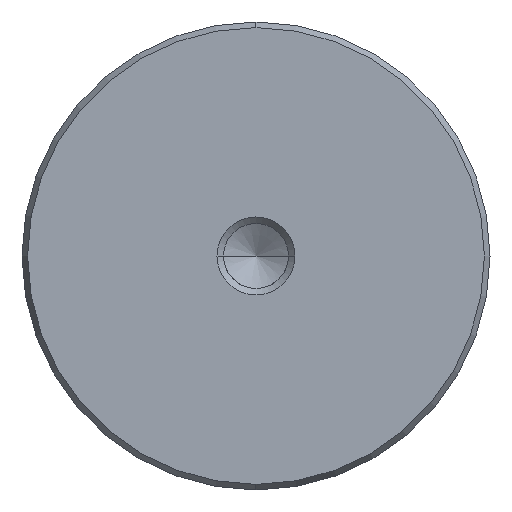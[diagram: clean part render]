
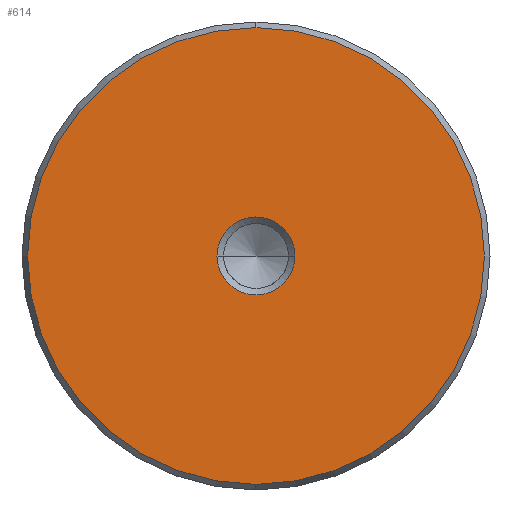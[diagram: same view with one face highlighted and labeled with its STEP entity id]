
A CAD part, left-side view. The second image highlights one B-rep face of the part: STEP entity #614.
In plain terms, the highlighted planar face has unit normal (-1, 0, 0).
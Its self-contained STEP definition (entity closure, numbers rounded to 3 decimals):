
#528=CARTESIAN_POINT('Vertex',(0.,0.,-23.423)) ;
#531=CARTESIAN_POINT('Axis2P3D Location',(0.,0.,0.)) ;
#535=CARTESIAN_POINT('Vertex',(0.,23.423,0.)) ;
#538=CARTESIAN_POINT('Axis2P3D Location',(0.,0.,0.)) ;
#542=CARTESIAN_POINT('Vertex',(0.,0.,23.423)) ;
#564=CARTESIAN_POINT('Axis2P3D Location',(0.,0.,0.)) ;
#568=CARTESIAN_POINT('Vertex',(0.,-23.423,0.)) ;
#571=CARTESIAN_POINT('Axis2P3D Location',(0.,0.,0.)) ;
#585=CARTESIAN_POINT('Axis2P3D Location',(0.,0.,0.)) ;
#596=CARTESIAN_POINT('Axis2P3D Location',(0.,0.,0.)) ;
#600=CARTESIAN_POINT('Vertex',(0.,4.,0.)) ;
#602=CARTESIAN_POINT('Vertex',(0.,-4.,0.)) ;
#605=CARTESIAN_POINT('Axis2P3D Location',(0.,0.,0.)) ;
#532=DIRECTION('Axis2P3D Direction',(1.,0.,-0.)) ;
#539=DIRECTION('Axis2P3D Direction',(1.,0.,-0.)) ;
#565=DIRECTION('Axis2P3D Direction',(1.,0.,-0.)) ;
#572=DIRECTION('Axis2P3D Direction',(1.,0.,-0.)) ;
#586=DIRECTION('Axis2P3D Direction',(1.,0.,-0.)) ;
#587=DIRECTION('Axis2P3D XDirection',(-0.,0.,-1.)) ;
#597=DIRECTION('Axis2P3D Direction',(1.,0.,-0.)) ;
#606=DIRECTION('Axis2P3D Direction',(1.,0.,-0.)) ;
#533=AXIS2_PLACEMENT_3D('Circle Axis2P3D',#531,#532,$) ;
#540=AXIS2_PLACEMENT_3D('Circle Axis2P3D',#538,#539,$) ;
#566=AXIS2_PLACEMENT_3D('Circle Axis2P3D',#564,#565,$) ;
#573=AXIS2_PLACEMENT_3D('Circle Axis2P3D',#571,#572,$) ;
#588=AXIS2_PLACEMENT_3D('Plane Axis2P3D',#585,#586,#587) ;
#598=AXIS2_PLACEMENT_3D('Circle Axis2P3D',#596,#597,$) ;
#607=AXIS2_PLACEMENT_3D('Circle Axis2P3D',#605,#606,$) ;
#591=ORIENTED_EDGE('',*,*,#537,.F.) ;
#592=ORIENTED_EDGE('',*,*,#575,.F.) ;
#593=ORIENTED_EDGE('',*,*,#570,.F.) ;
#594=ORIENTED_EDGE('',*,*,#544,.F.) ;
#611=ORIENTED_EDGE('',*,*,#604,.T.) ;
#612=ORIENTED_EDGE('',*,*,#609,.T.) ;
#613=FACE_BOUND('',#610,.T.) ;
#614=ADVANCED_FACE('720-48x280',(#595,#613),#589,.F.) ;
#534=CIRCLE('generated circle',#533,23.423) ;
#541=CIRCLE('generated circle',#540,23.423) ;
#567=CIRCLE('generated circle',#566,23.423) ;
#574=CIRCLE('generated circle',#573,23.423) ;
#599=CIRCLE('generated circle',#598,4.) ;
#608=CIRCLE('generated circle',#607,4.) ;
#537=EDGE_CURVE('',#529,#536,#534,.T.) ;
#544=EDGE_CURVE('',#536,#543,#541,.T.) ;
#570=EDGE_CURVE('',#543,#569,#567,.T.) ;
#575=EDGE_CURVE('',#569,#529,#574,.T.) ;
#604=EDGE_CURVE('',#601,#603,#599,.T.) ;
#609=EDGE_CURVE('',#603,#601,#608,.T.) ;
#590=EDGE_LOOP('',(#591,#592,#593,#594)) ;
#610=EDGE_LOOP('',(#611,#612)) ;
#595=FACE_OUTER_BOUND('',#590,.T.) ;
#589=PLANE('Plane',#588) ;
#529=VERTEX_POINT('',#528) ;
#536=VERTEX_POINT('',#535) ;
#543=VERTEX_POINT('',#542) ;
#569=VERTEX_POINT('',#568) ;
#601=VERTEX_POINT('',#600) ;
#603=VERTEX_POINT('',#602) ;
